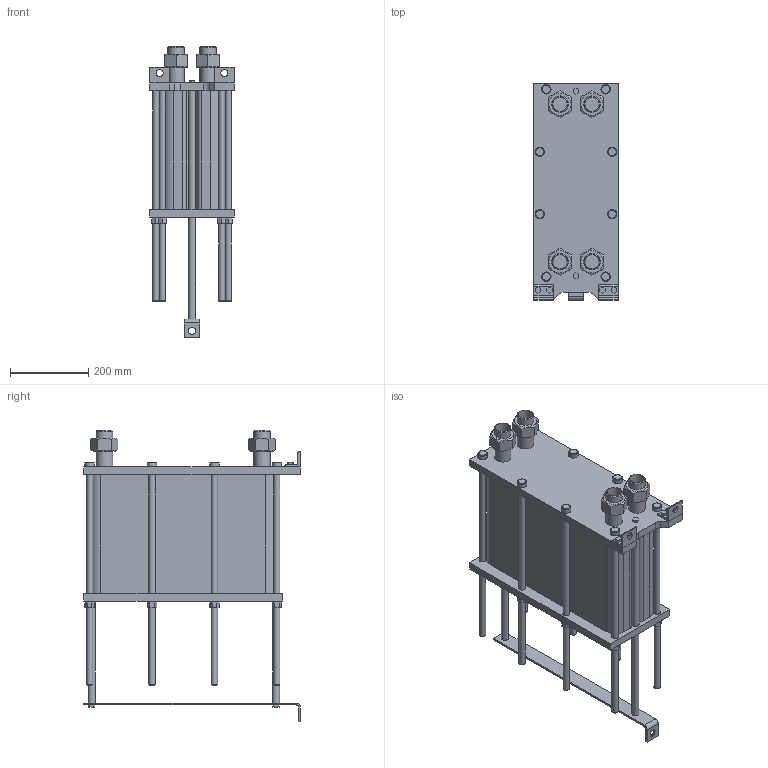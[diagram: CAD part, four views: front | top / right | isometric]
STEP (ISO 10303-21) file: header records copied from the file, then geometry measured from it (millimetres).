
FILE_DESCRIPTION(/* description */ (''),/* implementation_level */ '2;1');
FILE_NAME(/* name */ 'C:\Users\zhuro\Desktop\ENCO\TO\ЭН-004\ЭН-0,5-004-98-1.stp',/* time_stamp */ '2022-06-06T10:52:09+03:00',/* author */ ('zhuro'),/* organization */ (''),/* preprocessor_version */ 'ST-DEVELOPER v18.1',/* originating_system */ 'Autodesk Inventor 2022',/* authorisation */ '');
FILE_SCHEMA (('AUTOMOTIVE_DESIGN { 1 0 10303 214 3 1 1 }'));
Length unit declared in the file: millimetre
Products named in the file (1): ЭН-0,5-004-98-1
Bounding box: 216 x 555 x 747.4 mm (x, y, z)
Volume: 28531349.5 mm3; surface area: 1616492.8 mm2
Topology: 40 solids, 40 shells, 403 faces, 865 edges, 574 vertices
Faces by surface type: plane 272, cylinder 103, cone 28
Full cylindrical faces by diameter (mm): 10 x4, 16 x16, 18 x29, 20 x2, 24 x8, 28 x8, 36.3 x5, 42.3 x9
Entity records: 11137 total; most frequent: CARTESIAN_POINT 1939, DIRECTION 1879, ORIENTED_EDGE 1730, EDGE_CURVE 865, AXIS2_PLACEMENT_3D 658, VERTEX_POINT 574, LINE 563, VECTOR 563
